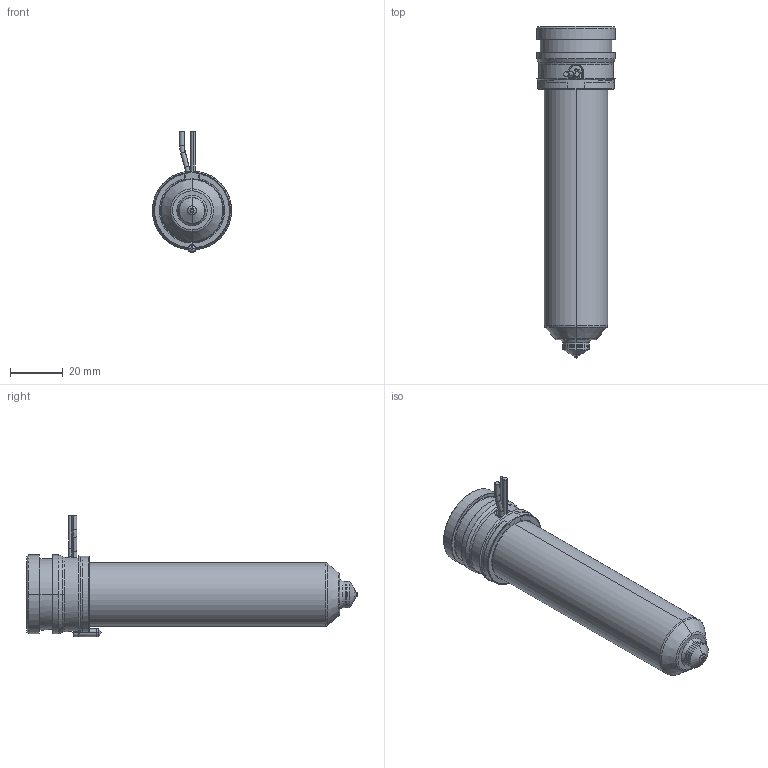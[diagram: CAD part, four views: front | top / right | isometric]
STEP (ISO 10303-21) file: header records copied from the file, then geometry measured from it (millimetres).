
FILE_DESCRIPTION((''),'2;1');
FILE_NAME('MPN-10-29-VSA10-106-A','2026-02-05T12:44:36',('UPTIO'),('Thermoplay S.p.A.'),'CREO PARAMETRIC BY PTC INC, 2023494','CREO PARAMETRIC BY PTC INC, 2023494','');
FILE_SCHEMA(('CONFIG_CONTROL_DESIGN','SHAPE_APPEARANCE_LAYERS_GROUPS'));
Length unit declared in the file: millimetre
Products named in the file (1): MPN-10-29-VSA10-106-A
Bounding box: 30 x 126 x 46 mm (x, y, z)
Volume: 39936.6 mm3; surface area: 39971.9 mm2
Topology: 2 solids, 3 shells, 556 faces, 1451 edges, 894 vertices
Faces by surface type: cylinder 184, plane 142, bspline 77, torus 70, cone 70, sphere 9, extrusion 4
Entity records: 28015 total; most frequent: CARTESIAN_POINT 11601, ORIENTED_EDGE 2890, DIRECTION 2691, EDGE_CURVE 1445, AXIS2_PLACEMENT_3D 1066, VERTEX_POINT 894, CIRCLE 590, EDGE_LOOP 585
